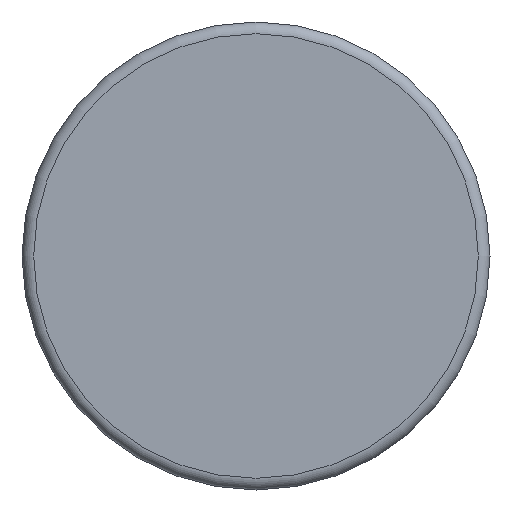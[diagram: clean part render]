
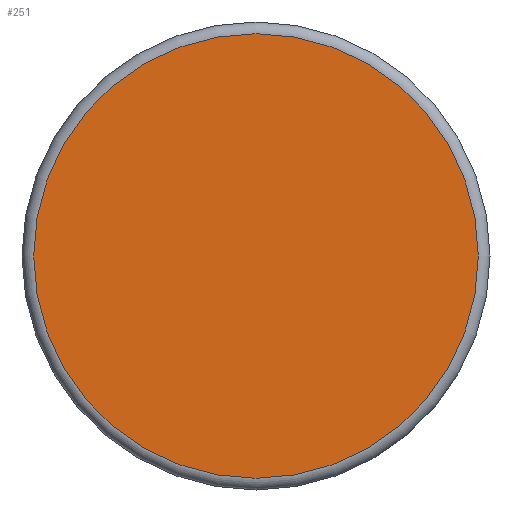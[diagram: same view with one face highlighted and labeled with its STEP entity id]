
A CAD part, front view. The second image highlights one B-rep face of the part: STEP entity #251.
In plain terms, the highlighted planar face has unit normal (0, -1, 0).
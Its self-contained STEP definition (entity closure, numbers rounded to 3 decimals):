
#251 = ADVANCED_FACE( '', ( #477 ), #478, .F. );
#477 = FACE_OUTER_BOUND( '', #677, .T. );
#478 = PLANE( '', #678 );
#677 = EDGE_LOOP( '', ( #1103 ) );
#678 = AXIS2_PLACEMENT_3D( '', #1104, #1105, #1106 );
#1103 = ORIENTED_EDGE( '', *, *, #1122, .T. );
#1104 = CARTESIAN_POINT( '', ( 19., 0., 0. ) );
#1105 = DIRECTION( '', ( 0., 1., 0. ) );
#1106 = DIRECTION( '', ( 0., 0., 1. ) );
#1122 = EDGE_CURVE( '', #1291, #1291, #1292, .T. );
#1291 = VERTEX_POINT( '', #1523 );
#1292 = CIRCLE( '', #1524, 19. );
#1523 = CARTESIAN_POINT( '', ( 0., 0., -19. ) );
#1524 = AXIS2_PLACEMENT_3D( '', #2017, #2018, #2019 );
#2017 = CARTESIAN_POINT( '', ( 0., 0., 0. ) );
#2018 = DIRECTION( '', ( 0., -1., 0. ) );
#2019 = DIRECTION( '', ( 0., 0., -1. ) );
